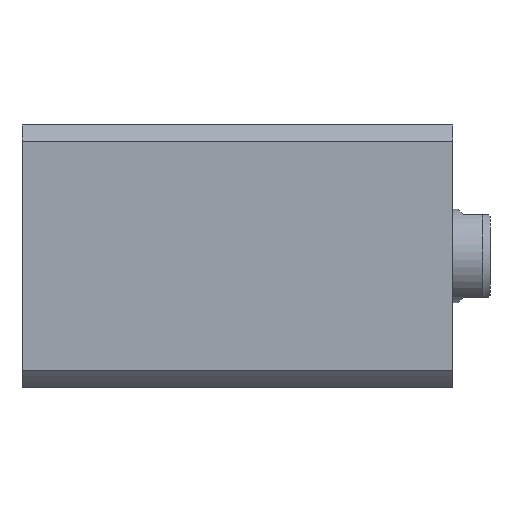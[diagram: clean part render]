
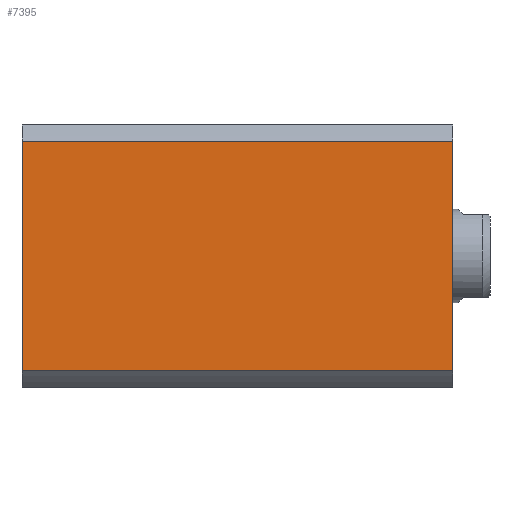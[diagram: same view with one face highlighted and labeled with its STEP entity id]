
A CAD part, left-side view. The second image highlights one B-rep face of the part: STEP entity #7395.
In plain terms, the highlighted planar face has unit normal (-1, 0, 0).
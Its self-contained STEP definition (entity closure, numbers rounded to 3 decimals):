
#11 = LINE ( 'NONE', #6582, #6058 ) ;
#384 = DIRECTION ( 'NONE',  ( 1., 0., 0. ) ) ;
#626 = EDGE_CURVE ( 'NONE', #1513, #1437, #11, .T. ) ;
#718 = ORIENTED_EDGE ( 'NONE', *, *, #4896, .T. ) ;
#1395 = EDGE_LOOP ( 'NONE', ( #3081, #6747, #9324, #718 ) ) ;
#1437 = VERTEX_POINT ( 'NONE', #4224 ) ;
#1513 = VERTEX_POINT ( 'NONE', #1998 ) ;
#1939 = EDGE_CURVE ( 'NONE', #7050, #6352, #4066, .T. ) ;
#1944 = CARTESIAN_POINT ( 'NONE',  ( -35., 35., 115. ) ) ;
#1998 = CARTESIAN_POINT ( 'NONE',  ( -35., -30.615, 115. ) ) ;
#2705 = AXIS2_PLACEMENT_3D ( 'NONE', #4304, #384, #5890 ) ;
#2978 = LINE ( 'NONE', #1944, #9232 ) ;
#3081 = ORIENTED_EDGE ( 'NONE', *, *, #626, .F. ) ;
#3136 = CARTESIAN_POINT ( 'NONE',  ( -35., 30.615, 0. ) ) ;
#3497 = PLANE ( 'NONE',  #2705 ) ;
#3608 = EDGE_CURVE ( 'NONE', #6352, #1513, #2978, .T. ) ;
#4066 = LINE ( 'NONE', #5633, #8238 ) ;
#4087 = DIRECTION ( 'NONE',  ( 0., 0., 1. ) ) ;
#4194 = VECTOR ( 'NONE', #10051, 1000. ) ;
#4224 = CARTESIAN_POINT ( 'NONE',  ( -35., -30.615, 0. ) ) ;
#4304 = CARTESIAN_POINT ( 'NONE',  ( -35., 35., 115. ) ) ;
#4896 = EDGE_CURVE ( 'NONE', #7050, #1437, #6307, .T. ) ;
#5343 = CARTESIAN_POINT ( 'NONE',  ( -35., 30.615, 115. ) ) ;
#5633 = CARTESIAN_POINT ( 'NONE',  ( -35., 30.615, 300. ) ) ;
#5890 = DIRECTION ( 'NONE',  ( 0., 1., 0. ) ) ;
#5998 = DIRECTION ( 'NONE',  ( 0., 0., -1. ) ) ;
#6058 = VECTOR ( 'NONE', #5998, 1000. ) ;
#6307 = LINE ( 'NONE', #8470, #4194 ) ;
#6352 = VERTEX_POINT ( 'NONE', #5343 ) ;
#6398 = FACE_OUTER_BOUND ( 'NONE', #1395, .T. ) ;
#6582 = CARTESIAN_POINT ( 'NONE',  ( -35., -30.615, 300. ) ) ;
#6747 = ORIENTED_EDGE ( 'NONE', *, *, #3608, .F. ) ;
#7050 = VERTEX_POINT ( 'NONE', #3136 ) ;
#7395 = ADVANCED_FACE ( 'NONE', ( #6398 ), #3497, .F. ) ;
#7437 = DIRECTION ( 'NONE',  ( 0., -1., 0. ) ) ;
#8238 = VECTOR ( 'NONE', #4087, 1000. ) ;
#8470 = CARTESIAN_POINT ( 'NONE',  ( -35., 35., 0. ) ) ;
#9232 = VECTOR ( 'NONE', #7437, 1000. ) ;
#9324 = ORIENTED_EDGE ( 'NONE', *, *, #1939, .F. ) ;
#10051 = DIRECTION ( 'NONE',  ( 0., -1., 0. ) ) ;
